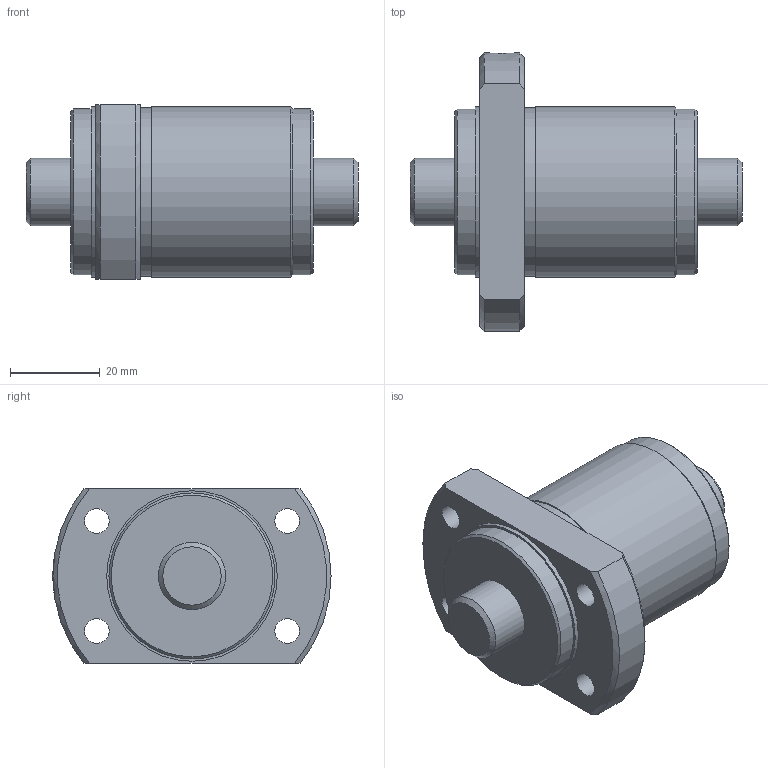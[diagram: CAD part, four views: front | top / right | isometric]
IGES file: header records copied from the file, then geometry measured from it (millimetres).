
Start section: Data from Parasolid IGES Translator 26.0.171, Copyright(c) 2006 Siemens PLM Software. All Rights Reserved.
Global section: file name: SBK1520-3.6RRG0+74LC0(0000).igs; native system: By Siemens PLM Incorporated; preprocessor: XPlus GENERIC/IGES 26.0.171; author: Noname; organization: Noname; date: 20240528.111917; units: millimetre
Bounding box: 74 x 62 x 39 mm (x, y, z)
Surface area: 18058.8 mm2 (no closed solid volume)
Topology: 0 solids, 0 shells, 35 faces, 153 edges, 124 vertices
Faces by surface type: revolution 25, extrusion 10
